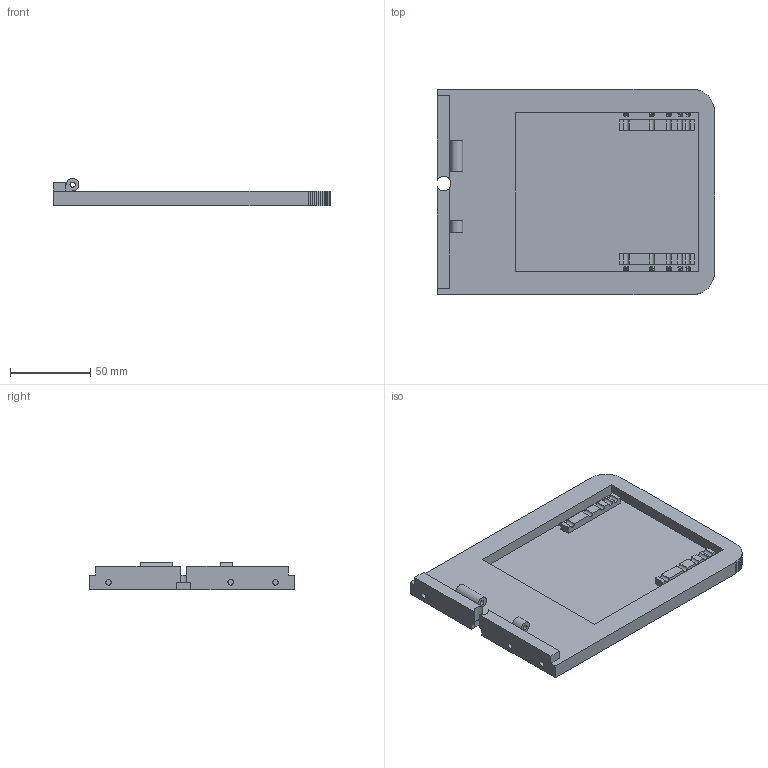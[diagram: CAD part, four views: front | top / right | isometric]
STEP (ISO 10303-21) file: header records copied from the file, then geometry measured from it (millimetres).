
FILE_DESCRIPTION(('Open CASCADE Model'),'2;1');
FILE_NAME('Open CASCADE Shape Model','2026-10-07T17:16:52',('Author'),( 'Open CASCADE'),'Open CASCADE STEP processor 8.0','build123d', 'Unknown');
FILE_SCHEMA(('AUTOMOTIVE_DESIGN { 1 0 10303 214 1 1 1 1 }'));
Length unit declared in the file: millimetre
Products named in the file (1): COMPOUND
Bounding box: 172.97 x 128.15 x 16.9 mm (x, y, z)
Volume: 126544.8 mm3; surface area: 56677.2 mm2
Topology: 1 solids, 1 shells, 508 faces, 1458 edges, 971 vertices
Faces by surface type: extrusion 262, plane 228, cylinder 18
Full cylindrical faces by diameter (mm): 3.3 x2, 3.4 x3
Entity records: 42127 total; most frequent: CARTESIAN_POINT 16157, DIRECTION 3457, ORIENTED_EDGE 2916, PCURVE 2916, DEFINITIONAL_REPRESENTATION 2916, VECTOR 2823, LINE 2561, B_SPLINE_CURVE_WITH_KNOTS 1969
